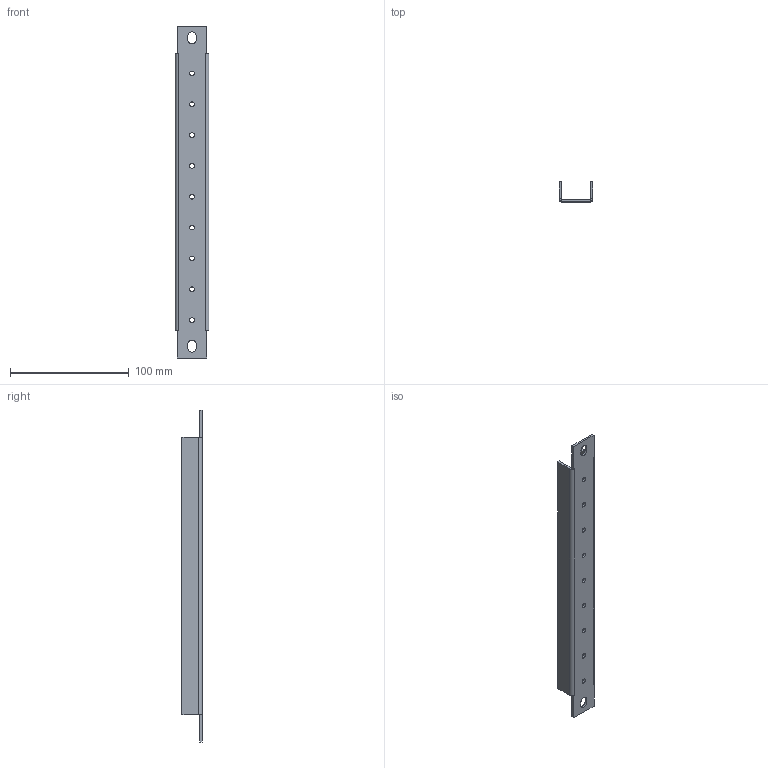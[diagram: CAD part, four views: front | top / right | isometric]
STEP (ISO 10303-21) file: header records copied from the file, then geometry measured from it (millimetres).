
FILE_DESCRIPTION (( 'STEP AP214' ), '1' );
FILE_NAME ('ÏðîôèëüÄëÿÄâåðè400(258933).STEP', '2018-07-16T08:43:29', ( '' ), ( '' ), 'SwSTEP 2.0', 'SolidWorks 2018', '' );
FILE_SCHEMA (( 'AUTOMOTIVE_DESIGN' ));
Length unit declared in the file: millimetre
Products named in the file (1): ÏðîôèëüÄëÿÄâåðè400(258933)
Bounding box: 28.5 x 17 x 280 mm (x, y, z)
Volume: 28470.2 mm3; surface area: 30156.6 mm2
Topology: 1 solids, 1 shells, 58 faces, 156 edges, 100 vertices
Faces by surface type: plane 30, cylinder 28
Entity records: 1902 total; most frequent: DIRECTION 334, CARTESIAN_POINT 315, ORIENTED_EDGE 312, EDGE_CURVE 156, AXIS2_PLACEMENT_3D 119, VERTEX_POINT 100, LINE 96, VECTOR 96
